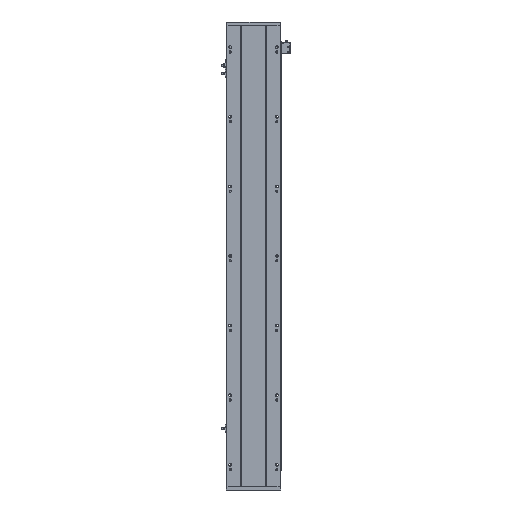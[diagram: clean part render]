
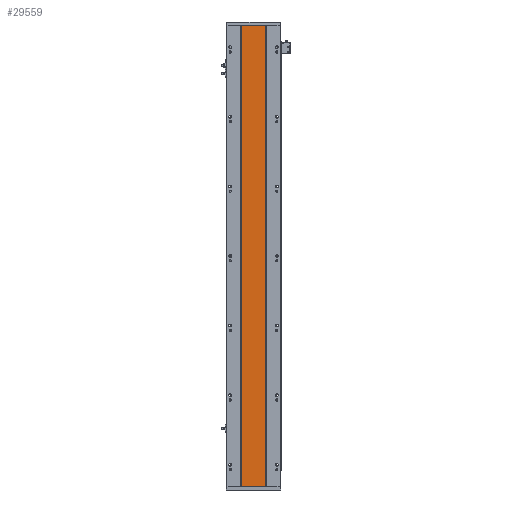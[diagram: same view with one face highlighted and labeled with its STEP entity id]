
A CAD part, front view. The second image highlights one B-rep face of the part: STEP entity #29559.
In plain terms, the highlighted planar face has unit normal (0, -1, 0).
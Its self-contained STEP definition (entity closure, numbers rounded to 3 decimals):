
#2632 = EDGE_CURVE ( 'NONE', #32744, #4223, #26227, .T. ) ;
#3385 = DIRECTION ( 'NONE',  ( 1., 0., 0. ) ) ;
#3967 = ORIENTED_EDGE ( 'NONE', *, *, #16045, .T. ) ;
#4223 = VERTEX_POINT ( 'NONE', #11521 ) ;
#6098 = VECTOR ( 'NONE', #22706, 1000. ) ;
#7154 = LINE ( 'NONE', #21975, #30045 ) ;
#7411 = DIRECTION ( 'NONE',  ( 1., 0., 0. ) ) ;
#7578 = CARTESIAN_POINT ( 'NONE',  ( 129.288, 16.9, 1432. ) ) ;
#11216 = LINE ( 'NONE', #17522, #29072 ) ;
#11325 = ORIENTED_EDGE ( 'NONE', *, *, #32042, .F. ) ;
#11362 = CARTESIAN_POINT ( 'NONE',  ( 205.288, 16.9, 1432. ) ) ;
#11521 = CARTESIAN_POINT ( 'NONE',  ( 129.288, 16.9, 0. ) ) ;
#14062 = LINE ( 'NONE', #17501, #6098 ) ;
#14229 = CARTESIAN_POINT ( 'NONE',  ( 205.288, 16.9, 1432. ) ) ;
#16045 = EDGE_CURVE ( 'NONE', #4223, #29979, #11216, .T. ) ;
#17501 = CARTESIAN_POINT ( 'NONE',  ( 205.288, 16.9, 1432. ) ) ;
#17522 = CARTESIAN_POINT ( 'NONE',  ( 205.288, 16.9, 0. ) ) ;
#19630 = EDGE_LOOP ( 'NONE', ( #3967, #11325, #31205, #32648 ) ) ;
#21842 = DIRECTION ( 'NONE',  ( 0., 1., 0. ) ) ;
#21975 = CARTESIAN_POINT ( 'NONE',  ( 129.288, 16.9, 1432. ) ) ;
#22011 = VERTEX_POINT ( 'NONE', #11362 ) ;
#22706 = DIRECTION ( 'NONE',  ( 0., 0., -1. ) ) ;
#25763 = EDGE_CURVE ( 'NONE', #32744, #22011, #7154, .T. ) ;
#26227 = LINE ( 'NONE', #7578, #34535 ) ;
#28845 = DIRECTION ( 'NONE',  ( 0., 0., -1. ) ) ;
#28925 = CARTESIAN_POINT ( 'NONE',  ( 129.288, 16.9, 1432. ) ) ;
#29049 = CARTESIAN_POINT ( 'NONE',  ( 205.288, 16.9, 0. ) ) ;
#29072 = VECTOR ( 'NONE', #7411, 1000. ) ;
#29559 = ADVANCED_FACE ( 'NONE', ( #34562 ), #30015, .F. ) ;
#29979 = VERTEX_POINT ( 'NONE', #29049 ) ;
#30015 = PLANE ( 'NONE',  #34020 ) ;
#30045 = VECTOR ( 'NONE', #3385, 1000. ) ;
#30353 = DIRECTION ( 'NONE',  ( -1., 0., 0. ) ) ;
#31205 = ORIENTED_EDGE ( 'NONE', *, *, #25763, .F. ) ;
#32042 = EDGE_CURVE ( 'NONE', #22011, #29979, #14062, .T. ) ;
#32648 = ORIENTED_EDGE ( 'NONE', *, *, #2632, .T. ) ;
#32744 = VERTEX_POINT ( 'NONE', #28925 ) ;
#34020 = AXIS2_PLACEMENT_3D ( 'NONE', #14229, #21842, #30353 ) ;
#34535 = VECTOR ( 'NONE', #28845, 1000. ) ;
#34562 = FACE_OUTER_BOUND ( 'NONE', #19630, .T. ) ;
